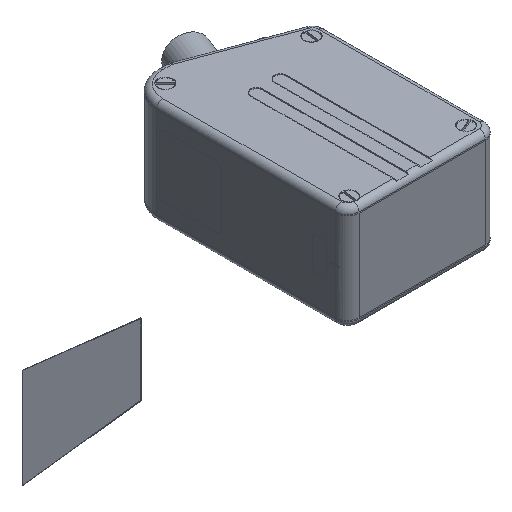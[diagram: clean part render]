
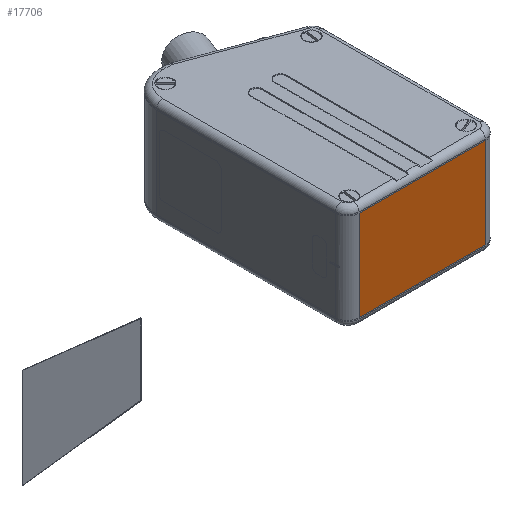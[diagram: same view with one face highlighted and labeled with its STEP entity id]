
A CAD part, isometric view. The second image highlights one B-rep face of the part: STEP entity #17706.
In plain terms, the highlighted planar face has unit normal (0, -1, 0).
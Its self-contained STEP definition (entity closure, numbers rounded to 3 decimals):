
#32 = CARTESIAN_POINT ( 'NONE',  ( 57.7, -44.121, 44. ) ) ;
#143 = DIRECTION ( 'NONE',  ( 0., 0., 1. ) ) ;
#1156 = DIRECTION ( 'NONE',  ( -1., 0., 0. ) ) ;
#1553 = VECTOR ( 'NONE', #18099, 1000. ) ;
#1684 = LINE ( 'NONE', #28085, #31532 ) ;
#1904 = CARTESIAN_POINT ( 'NONE',  ( 57.7, -44.121, 41. ) ) ;
#2798 = ORIENTED_EDGE ( 'NONE', *, *, #7421, .T. ) ;
#4943 = DIRECTION ( 'NONE',  ( 0., 1., 0. ) ) ;
#5462 = EDGE_CURVE ( 'NONE', #5531, #29741, #1684, .T. ) ;
#5531 = VERTEX_POINT ( 'NONE', #33386 ) ;
#6992 = CARTESIAN_POINT ( 'NONE',  ( -0.3, -44.121, 41. ) ) ;
#7421 = EDGE_CURVE ( 'NONE', #13472, #33908, #25050, .T. ) ;
#7505 = VECTOR ( 'NONE', #143, 1000. ) ;
#7892 = CARTESIAN_POINT ( 'NONE',  ( -0.3, -44.121, 44. ) ) ;
#8144 = VECTOR ( 'NONE', #1156, 1000. ) ;
#8698 = ORIENTED_EDGE ( 'NONE', *, *, #5462, .T. ) ;
#10325 = ORIENTED_EDGE ( 'NONE', *, *, #16911, .F. ) ;
#10491 = ORIENTED_EDGE ( 'NONE', *, *, #14305, .F. ) ;
#11354 = CARTESIAN_POINT ( 'NONE',  ( 57.7, -44.121, 3. ) ) ;
#11691 = CARTESIAN_POINT ( 'NONE',  ( -0.3, -44.121, 3. ) ) ;
#13472 = VERTEX_POINT ( 'NONE', #11354 ) ;
#14305 = EDGE_CURVE ( 'NONE', #5531, #33908, #28011, .T. ) ;
#15151 = AXIS2_PLACEMENT_3D ( 'NONE', #7892, #4943, #18787 ) ;
#16911 = EDGE_CURVE ( 'NONE', #13472, #29741, #19669, .T. ) ;
#17706 = ADVANCED_FACE ( 'NONE', ( #30637 ), #24167, .F. ) ;
#18099 = DIRECTION ( 'NONE',  ( 1., 0., 0. ) ) ;
#18787 = DIRECTION ( 'NONE',  ( 0., 0., 1. ) ) ;
#19415 = CARTESIAN_POINT ( 'NONE',  ( 4.7, -44.121, 3. ) ) ;
#19669 = LINE ( 'NONE', #11691, #8144 ) ;
#23762 = EDGE_LOOP ( 'NONE', ( #10325, #2798, #10491, #8698 ) ) ;
#24167 = PLANE ( 'NONE',  #15151 ) ;
#25050 = LINE ( 'NONE', #32, #7505 ) ;
#28011 = LINE ( 'NONE', #6992, #1553 ) ;
#28085 = CARTESIAN_POINT ( 'NONE',  ( 4.7, -44.121, 44. ) ) ;
#29741 = VERTEX_POINT ( 'NONE', #19415 ) ;
#30637 = FACE_OUTER_BOUND ( 'NONE', #23762, .T. ) ;
#30890 = DIRECTION ( 'NONE',  ( 0., 0., -1. ) ) ;
#31532 = VECTOR ( 'NONE', #30890, 1000. ) ;
#33386 = CARTESIAN_POINT ( 'NONE',  ( 4.7, -44.121, 41. ) ) ;
#33908 = VERTEX_POINT ( 'NONE', #1904 ) ;
